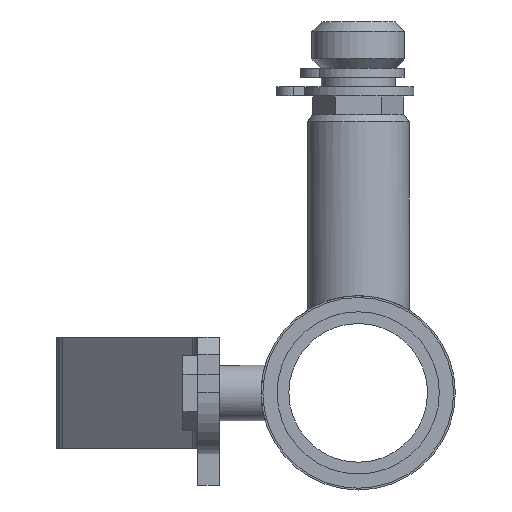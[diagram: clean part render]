
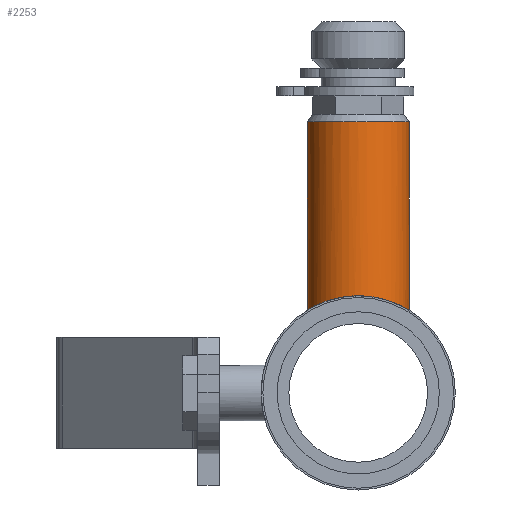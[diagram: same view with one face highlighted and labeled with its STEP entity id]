
A CAD part, left-side view. The second image highlights one B-rep face of the part: STEP entity #2253.
In plain terms, the highlighted cylindrical face has radius 6.985 mm (diameter 13.97 mm), a full revolution.
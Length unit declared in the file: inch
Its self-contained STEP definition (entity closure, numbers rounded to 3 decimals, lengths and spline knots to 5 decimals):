
#55=B_SPLINE_CURVE_WITH_KNOTS('',3,(#3804,#3805,#3806,#3807,#3808,#3809,
#3810,#3811,#3812,#3813,#3814,#3815,#3816,#3817,#3818,#3819,#3820,#3821,
#3822,#3823,#3824,#3825,#3826,#3827,#3828,#3829),.UNSPECIFIED.,.F.,.F.,
(4,2,2,2,2,2,2,2,2,2,2,2,4),(0.,0.26957,0.53913,0.80779,
1.07645,1.3451,1.61376,1.88333,2.15289,
2.42246,2.69203,2.96068,3.22934),
 .UNSPECIFIED.);
#56=B_SPLINE_CURVE_WITH_KNOTS('',3,(#3830,#3831,#3832,#3833,#3834,#3835,
#3836,#3837,#3838,#3839),.UNSPECIFIED.,.F.,.F.,(4,2,2,2,4),(3.22934,
3.498,3.76665,4.03622,4.30579),
 .UNSPECIFIED.);
#266=FACE_OUTER_BOUND('',#399,.T.);
#399=EDGE_LOOP('',(#1954,#1955,#1956,#1957,#1958));
#604=LINE('',#3802,#798);
#798=VECTOR('',#3096,0.275);
#890=CIRCLE('',#2476,0.275);
#1079=VERTEX_POINT('',#3797);
#1080=VERTEX_POINT('',#3801);
#1081=VERTEX_POINT('',#3803);
#1375=EDGE_CURVE('',#1079,#1079,#890,.T.);
#1377=EDGE_CURVE('',#1079,#1080,#604,.T.);
#1378=EDGE_CURVE('',#1081,#1080,#55,.T.);
#1379=EDGE_CURVE('',#1080,#1081,#56,.T.);
#1954=ORIENTED_EDGE('',*,*,#1375,.F.);
#1955=ORIENTED_EDGE('',*,*,#1377,.T.);
#1956=ORIENTED_EDGE('',*,*,#1378,.F.);
#1957=ORIENTED_EDGE('',*,*,#1379,.F.);
#1958=ORIENTED_EDGE('',*,*,#1377,.F.);
#2025=CYLINDRICAL_SURFACE('',#2477,0.275);
#2253=ADVANCED_FACE('',(#266),#2025,.T.);
#2476=AXIS2_PLACEMENT_3D('',#3798,#3091,#3092);
#2477=AXIS2_PLACEMENT_3D('',#3800,#3094,#3095);
#3091=DIRECTION('center_axis',(0.,0.,1.));
#3092=DIRECTION('ref_axis',(-1.,0.,0.));
#3094=DIRECTION('center_axis',(0.,0.,1.));
#3095=DIRECTION('ref_axis',(-1.,0.,0.));
#3096=DIRECTION('',(0.,0.,-1.));
#3797=CARTESIAN_POINT('',(-0.425,0.,1.465));
#3798=CARTESIAN_POINT('Origin',(-0.7,0.,1.465));
#3800=CARTESIAN_POINT('Origin',(-0.7,0.,0.));
#3801=CARTESIAN_POINT('',(-0.425,0.,0.525));
#3802=CARTESIAN_POINT('',(-0.425,0.,0.));
#3803=CARTESIAN_POINT('',(-0.7,-0.275,0.44721));
#3804=CARTESIAN_POINT('Ctrl Pts',(-0.7,-0.275,0.44721));
#3805=CARTESIAN_POINT('Ctrl Pts',(-0.73538,-0.275,0.44721));
#3806=CARTESIAN_POINT('Ctrl Pts',(-0.77247,-0.26779,
0.45186));
#3807=CARTESIAN_POINT('Ctrl Pts',(-0.83993,-0.23954,
0.46744));
#3808=CARTESIAN_POINT('Ctrl Pts',(-0.87038,-0.21853,
0.47806));
#3809=CARTESIAN_POINT('Ctrl Pts',(-0.91845,-0.17046,
0.49723));
#3810=CARTESIAN_POINT('Ctrl Pts',(-0.93952,-0.13999,
0.50717));
#3811=CARTESIAN_POINT('Ctrl Pts',(-0.96781,-0.07241,
0.52113));
#3812=CARTESIAN_POINT('Ctrl Pts',(-0.975,-0.03526,0.525));
#3813=CARTESIAN_POINT('Ctrl Pts',(-0.975,0.03526,0.525));
#3814=CARTESIAN_POINT('Ctrl Pts',(-0.96781,0.07241,
0.52113));
#3815=CARTESIAN_POINT('Ctrl Pts',(-0.93952,0.13999,
0.50717));
#3816=CARTESIAN_POINT('Ctrl Pts',(-0.91845,0.17046,0.49723));
#3817=CARTESIAN_POINT('Ctrl Pts',(-0.87038,0.21853,
0.47806));
#3818=CARTESIAN_POINT('Ctrl Pts',(-0.83993,0.23954,
0.46744));
#3819=CARTESIAN_POINT('Ctrl Pts',(-0.77247,0.26779,
0.45186));
#3820=CARTESIAN_POINT('Ctrl Pts',(-0.73538,0.275,0.44721));
#3821=CARTESIAN_POINT('Ctrl Pts',(-0.66462,0.275,0.44721));
#3822=CARTESIAN_POINT('Ctrl Pts',(-0.62753,0.26779,
0.45186));
#3823=CARTESIAN_POINT('Ctrl Pts',(-0.56007,0.23954,
0.46744));
#3824=CARTESIAN_POINT('Ctrl Pts',(-0.52962,0.21853,
0.47806));
#3825=CARTESIAN_POINT('Ctrl Pts',(-0.48155,0.17046,0.49723));
#3826=CARTESIAN_POINT('Ctrl Pts',(-0.46048,0.13999,0.50717));
#3827=CARTESIAN_POINT('Ctrl Pts',(-0.43219,0.07241,
0.52113));
#3828=CARTESIAN_POINT('Ctrl Pts',(-0.425,0.03526,0.525));
#3829=CARTESIAN_POINT('Ctrl Pts',(-0.425,0.,0.525));
#3830=CARTESIAN_POINT('Ctrl Pts',(-0.425,0.,0.525));
#3831=CARTESIAN_POINT('Ctrl Pts',(-0.425,-0.03526,0.525));
#3832=CARTESIAN_POINT('Ctrl Pts',(-0.43219,-0.07241,
0.52113));
#3833=CARTESIAN_POINT('Ctrl Pts',(-0.46048,-0.13999,
0.50717));
#3834=CARTESIAN_POINT('Ctrl Pts',(-0.48155,-0.17046,
0.49723));
#3835=CARTESIAN_POINT('Ctrl Pts',(-0.52962,-0.21853,
0.47806));
#3836=CARTESIAN_POINT('Ctrl Pts',(-0.56007,-0.23954,
0.46744));
#3837=CARTESIAN_POINT('Ctrl Pts',(-0.62753,-0.26779,
0.45186));
#3838=CARTESIAN_POINT('Ctrl Pts',(-0.66462,-0.275,0.44721));
#3839=CARTESIAN_POINT('Ctrl Pts',(-0.7,-0.275,0.44721));
